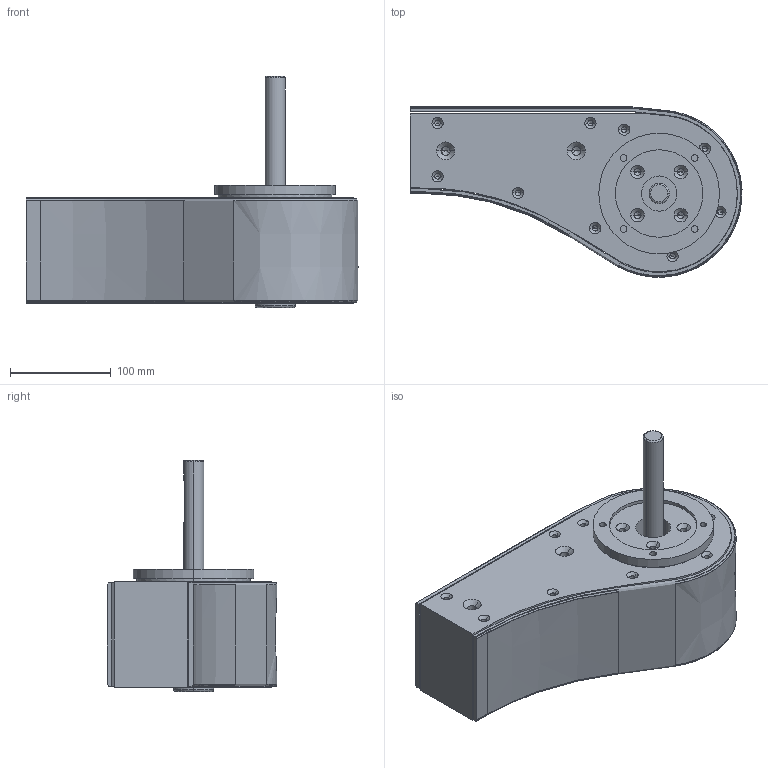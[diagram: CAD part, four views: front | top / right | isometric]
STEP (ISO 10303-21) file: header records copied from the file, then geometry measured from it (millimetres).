
FILE_DESCRIPTION (( 'STEP AP214' ), '1' );
FILE_NAME ('FCDD GP OR.step', '2017-04-07T11:06:13', ( '' ), ( '' ), 'SwSTEP 2.0', 'SolidWorks 2016', '' );
FILE_SCHEMA (( 'AUTOMOTIVE_DESIGN' ));
Length unit declared in the file: millimetre
Products named in the file (1): FCDD GP OR
Bounding box: 330.21 x 168.95 x 229.91 mm (x, y, z)
Volume: 4239696.8 mm3; surface area: 343234.8 mm2
Topology: 1 solids, 1 shells, 285 faces, 683 edges, 374 vertices
Faces by surface type: cone 128, cylinder 94, plane 37, bspline 22, torus 4
Entity records: 9866 total; most frequent: CARTESIAN_POINT 2776, DIRECTION 1370, ORIENTED_EDGE 1246, EDGE_CURVE 623, AXIS2_PLACEMENT_3D 530, VERTEX_POINT 374, EDGE_LOOP 327, LINE 310
